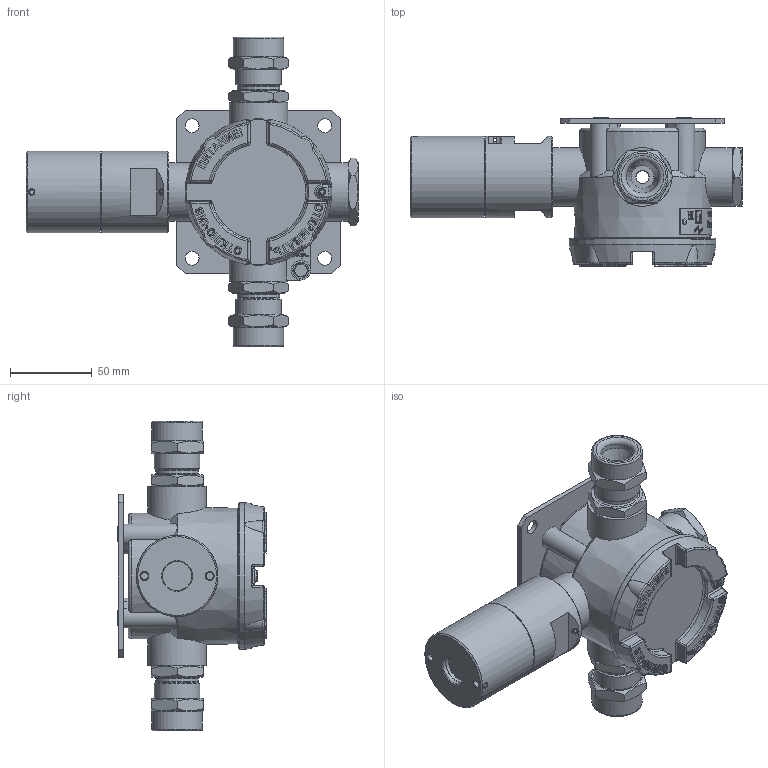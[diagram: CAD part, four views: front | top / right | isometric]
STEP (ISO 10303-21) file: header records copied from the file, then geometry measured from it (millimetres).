
FILE_DESCRIPTION(('STEP AP203'), '1');
FILE_NAME('捇迕.413347.021-01捘.stp', '2022-01-14T12:28:38', ('romanovaiv'), ('Sensor'), 'ASCON STEP Converter 1.3', 'Kompas 3D', '');
FILE_SCHEMA(('CONFIG_CONTROL_DESIGN','SUPPORT_RESOURCE_SCHEMA'));
Length unit declared in the file: millimetre
Products named in the file (50): 193; 194; 195; 196; 197; 198; 199; 200; 201; 202; 203; 204; 205; 206; 207; 208; 209; 210; 211; 212; 213; 214; 215; 216; 217; 218; 219; 220; 221; 222; 223; 224; 225; 226; 227; 228; 229; 230; 231; 232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
Assembly tree (76 placements, depth 6):
  193
    194
      195
      196
      197  x2
      198  x2
      199
      200
      201
      202  x2
      203
      204
      205
        206
        207
        208
        209
        210
      211
        206
        207
        208
        209
        210
      212
      210
      213
      214
      215  x4
    216
      217
        218
        219
          220
            221
            222  x5
            223  x4
          224
        225
      210
      226
      227
      228
      229
        230
        231
      232
      233
    234
      235
      236
      237
    238  x3
    239  x3
    240  x3
    241
    242  x2
Bounding box: 203.5 x 90.75 x 190 mm (x, y, z)
Volume: 493889.3 mm3; surface area: 216644.4 mm2
Topology: 91 solids, 91 shells, 4432 faces, 11962 edges, 7856 vertices
Faces by surface type: plane 2339, cylinder 1629, cone 211, extrusion 105, torus 98, bspline 38, sphere 11, revolution 1
Full cylindrical faces by diameter (mm): 1 x18, 1.02 x4, 1.3 x18, 1.5 x5, 1.85 x4, 2 x5, 2.29 x8, 2.459 x3, 2.49 x5, 3 x5, 3.05 x10, 3.141 x1, 3.242 x5, 3.4 x3, 3.5 x3, 4 x3, 4.134 x5, 4.3 x2, 4.5 x2, 5 x5, 5.3 x2, 5.5 x7, 7 x3, 8 x2, 8.5 x4, 9 x2, 10 x2, 12 x1, 13 x3, 17 x1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
Entity records: 194327 total; most frequent: CARTESIAN_POINT 65177, ORIENTED_EDGE 22918, DIRECTION 16958, EDGE_CURVE 11459, VERTEX_POINT 7547, VECTOR 5819, LINE 5714, AXIS2_PLACEMENT_3D 5569
